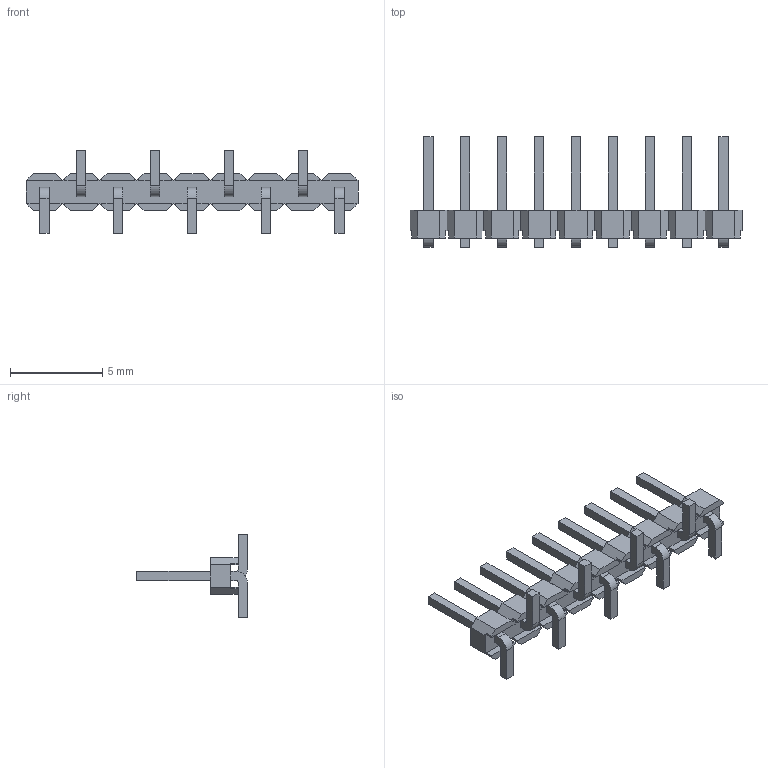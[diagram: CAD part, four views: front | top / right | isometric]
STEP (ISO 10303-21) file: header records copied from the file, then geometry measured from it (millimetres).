
FILE_DESCRIPTION (( 'STEP AP203' ), '1' );
FILE_NAME ('PZ200-1-09-S-1.5-XX-2(L6.0) (2.0 等齬 齬渀 泂え 呿詢1.5-HCTL).STEP', '2026-02-26T09:59:47', ( '' ), ( '' ), 'SwSTEP 2.0', 'SolidWorks 2025', '' );
FILE_SCHEMA (( 'CONFIG_CONTROL_DESIGN' ));
Length unit declared in the file: millimetre
Products named in the file (1): PZ200-1-09-S-1.5-XX-2(L6.0) (2.0 单排 排针 贴片 塑高1.5-HCTL)
Bounding box: 18 x 6 x 4.5 mm (x, y, z)
Volume: 56.2 mm3; surface area: 262.1 mm2
Topology: 1 solids, 1 shells, 274 faces, 780 edges, 508 vertices
Faces by surface type: plane 256, cylinder 18
Entity records: 8825 total; most frequent: CARTESIAN_POINT 1563, ORIENTED_EDGE 1560, DIRECTION 1366, EDGE_CURVE 780, LINE 744, VECTOR 744, VERTEX_POINT 508, AXIS2_PLACEMENT_3D 311
